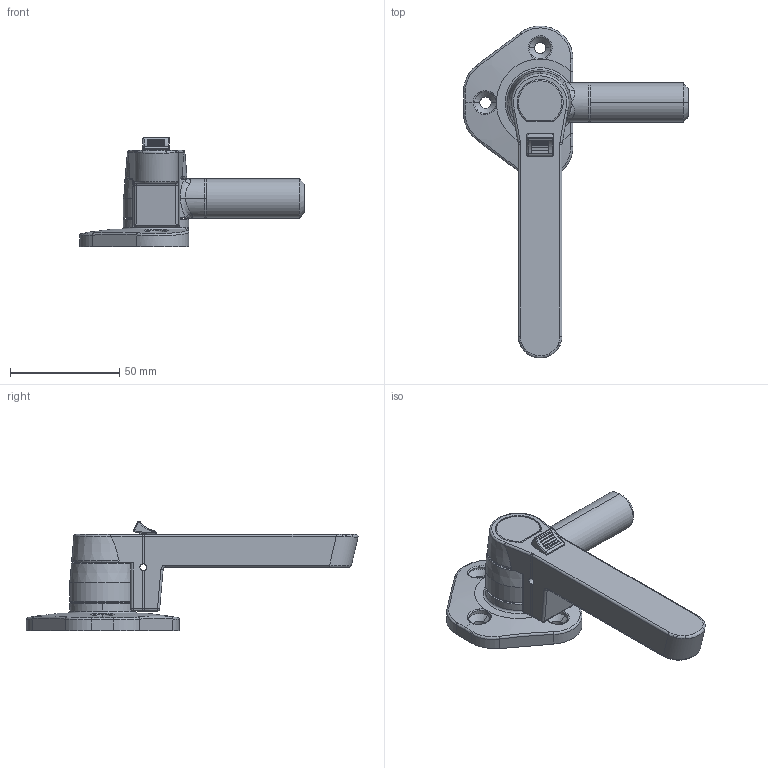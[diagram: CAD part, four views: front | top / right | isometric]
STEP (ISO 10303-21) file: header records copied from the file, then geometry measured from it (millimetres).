
FILE_DESCRIPTION (( 'STEP AP214' ), '1' );
FILE_NAME ('EL-115-BTL.STEP', '2016-02-06T17:07:25', ( '' ), ( '' ), 'SwSTEP 2.0', 'SolidWorks 2012', '' );
FILE_SCHEMA (( 'AUTOMOTIVE_DESIGN' ));
Length unit declared in the file: millimetre
Products named in the file (6): EL-115E; EL-115D; EL-115C; EL-115B; EL-115A; EL-115-BTL
Assembly tree (5 placements, depth 2):
  EL-115-BTL
    EL-115A
    EL-115B
    EL-115C
    EL-115D
    EL-115E
Bounding box: 102.8 x 151.72 x 50 mm (x, y, z)
Volume: 75906 mm3; surface area: 29113.8 mm2
Topology: 5 solids, 5 shells, 322 faces, 820 edges, 497 vertices
Faces by surface type: cylinder 138, plane 79, bspline 43, torus 39, cone 13, sphere 10
Entity records: 13228 total; most frequent: CARTESIAN_POINT 5470, ORIENTED_EDGE 1600, DIRECTION 1596, EDGE_CURVE 800, AXIS2_PLACEMENT_3D 642, VERTEX_POINT 495, CIRCLE 355, EDGE_LOOP 341
